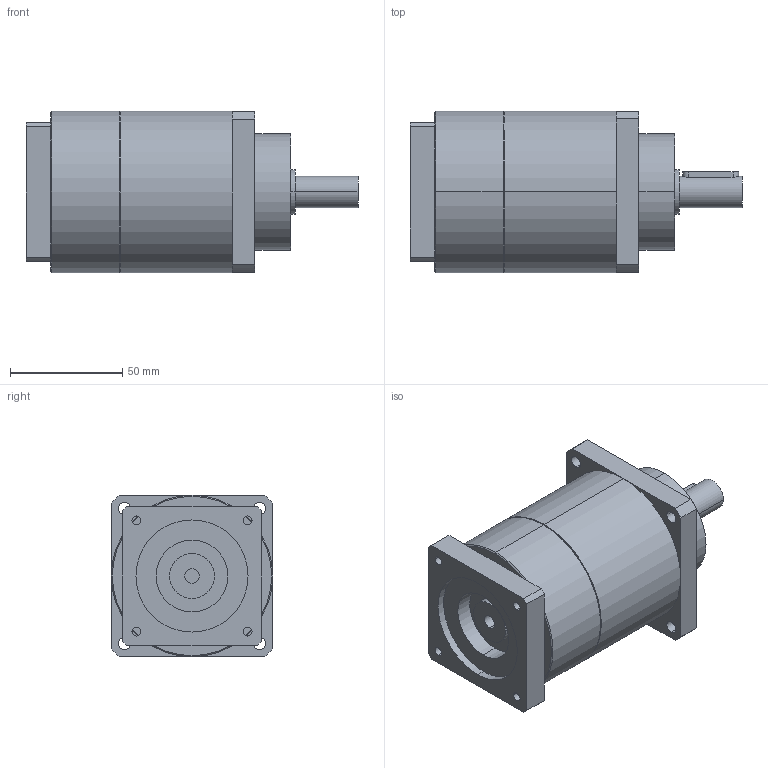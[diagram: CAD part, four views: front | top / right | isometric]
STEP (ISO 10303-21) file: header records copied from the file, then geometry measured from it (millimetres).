
FILE_DESCRIPTION(('CoCreate Modeling STEP Export'),'2;1');
FILE_NAME('GPT75_ig-9-12-16-20-25-28-35-40-50-70-100_14_B5T_6.35_P31.stp','2014-08-27T13:39:43',(''),(''),'CoCreate Modeling STEP processor for AP214 (Solid Model)','CoCreate Modeling 16.00C 25-Feb-2009 (C) Parametric Technology GmbH','');
FILE_SCHEMA(('AUTOMOTIVE_DESIGN { 1 0 10303 214 1 1 1 1 }'));
Length unit declared in the file: millimetre
Products named in the file (2): GPT75_ig-9-12-16-20-25-28-35-40-50-70-100_14_B5T_6.35_P31
Assembly tree (1 placements, depth 2):
  GPT75_ig-9-12-16-20-25-28-35-40-50-70-100_14_B5T_6.35_P31
    GPT75_ig-9-12-16-20-25-28-35-40-50-70-100_14_B5T_6.35_P31
Bounding box: 148 x 72 x 72 mm (x, y, z)
Volume: 448160.9 mm3; surface area: 42278.3 mm2
Topology: 1 solids, 1 shells, 88 faces, 226 edges, 145 vertices
Faces by surface type: cylinder 46, plane 38, cone 4
Entity records: 2676 total; most frequent: CARTESIAN_POINT 744, ORIENTED_EDGE 452, DIRECTION 334, EDGE_CURVE 226, VERTEX_POINT 145, AXIS2_PLACEMENT_3D 123, EDGE_LOOP 109, VECTOR 88
